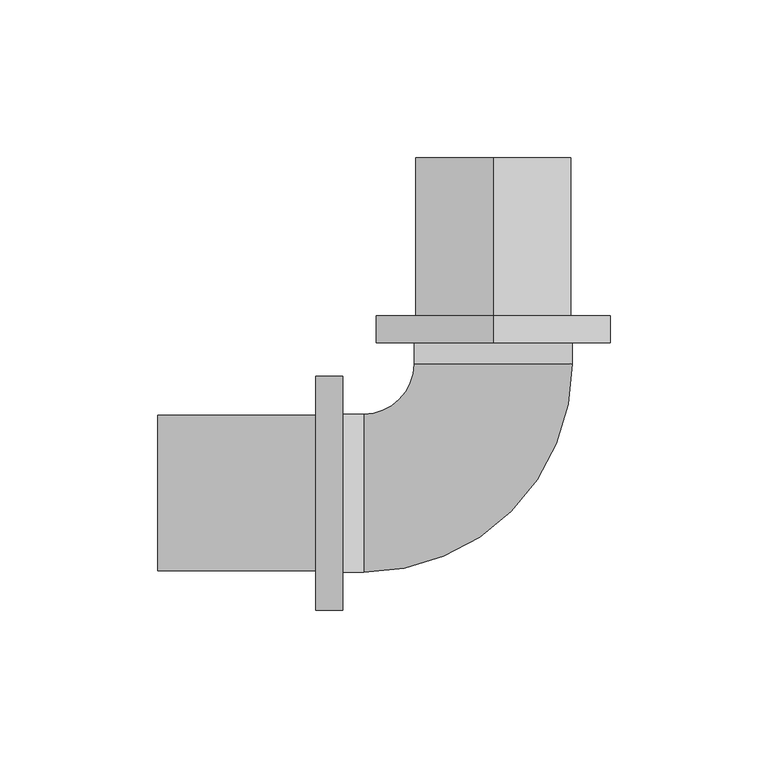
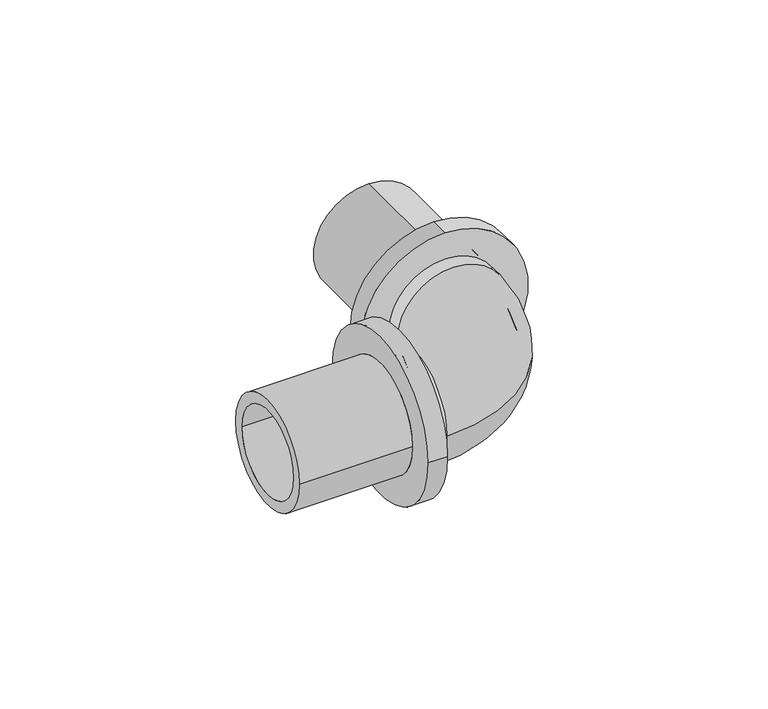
"""IFC4 building model written with IfcOpenShell, lengths in millimetres: pipe fitting geometry, RAUTITAN_Corner_RX+ : RTI RX+ C DN."""

from ifc_helpers import new_model, si_unit, point, frame, origin, place, context, project, spatial, polyline, circle_curve, ellipse_curve, trimmed, source, transform, mapped, element, save
from ifc_brep_helpers import plane_surface, cylinder_surface, revolved_surface, advanced_brep


def pipe_fitting_41d1b401(model_context):
    return source(origin(), model_context, "Body", "AdvancedBrep", [
        advanced_brep(
        [(0.0, 56.2, 37.05), (0.0, 56.2, -37.05), (0.0, 47.7, -37.05), (0.0, 47.7, 37.05), (0.0, 106.2, 24.65), (0.0, 106.2, -24.65), (0.0, 56.2, -24.65), (0.0, 56.2, 24.65), (0.0, 47.7, 19.75), (0.0, 47.7, -19.75), (0.0, 106.2, -19.75), (0.0, 106.2, 19.75)],
        [
            (0, 1, circle_curve(frame((0.0, 56.2, 0.0), z_axis=(0.0, -1.0, 0.0), x_axis=(0.0, 0.0, -1.0)), 37.05)),
            (1, 2),
            (2, 3, circle_curve(frame((0.0, 47.7, 0.0), z_axis=(0.0, 1.0, 0.0), x_axis=(0.0, 0.0, -1.0)), 37.05)),
            (3, 0),
            (4, 5, circle_curve(frame((0.0, 106.2, 0.0), z_axis=(0.0, -1.0, 0.0), x_axis=(0.0, 0.0, -1.0)), 24.65)),
            (5, 6),
            (6, 7, circle_curve(frame((0.0, 56.2, 0.0), z_axis=(0.0, 1.0, 0.0), x_axis=(0.0, 0.0, -1.0)), 24.65)),
            (7, 4),
            (8, 9, circle_curve(frame((0.0, 47.7, 0.0), z_axis=(0.0, -1.0, 0.0), x_axis=(0.0, 0.0, -1.0)), 19.75)),
            (9, 10),
            (10, 11, circle_curve(frame((0.0, 106.2, 0.0), z_axis=(0.0, 1.0, 0.0), x_axis=(0.0, 0.0, -1.0)), 19.75)),
            (11, 8),
            (1, 0, circle_curve(frame((0.0, 56.2, 0.0), z_axis=(0.0, -1.0, 0.0), x_axis=(0.0, 0.0, 1.0)), 37.05)),
            (3, 2, circle_curve(frame((0.0, 47.7, 0.0), z_axis=(0.0, 1.0, 0.0), x_axis=(0.0, 0.0, 1.0)), 37.05)),
            (6, 7, circle_curve(frame((0.0, 56.2, 0.0), z_axis=(0.0, -1.0, 0.0), x_axis=(0.0, 0.0, 1.0)), 24.65)),
            (5, 4, circle_curve(frame((0.0, 106.2, 0.0), z_axis=(0.0, -1.0, 0.0), x_axis=(0.0, 0.0, 1.0)), 24.65)),
            (10, 11, circle_curve(frame((0.0, 106.2, 0.0), z_axis=(0.0, -1.0, 0.0), x_axis=(0.0, 0.0, 1.0)), 19.75)),
            (9, 8, circle_curve(frame((0.0, 47.7, 0.0), z_axis=(0.0, -1.0, 0.0), x_axis=(0.0, 0.0, 1.0)), 19.75)),
        ],
        [
            cylinder_surface(frame((0.0, 47.7, 0.0), z_axis=(0.0, 1.0, 0.0), x_axis=(0.0, 0.0, -1.0)), 37.05),
            cylinder_surface(frame((0.0, 47.7, 0.0), z_axis=(0.0, 1.0, 0.0), x_axis=(0.0, 0.0, -1.0)), 24.65),
            revolved_surface(polyline([(0.0, 106.2, -19.75), (0.0, 47.7, -19.75)]), (0.0, 47.7, 0.0), (0.0, 1.0, 0.0)),
            cylinder_surface(frame((0.0, 47.7, 0.0), z_axis=(0.0, 1.0, 0.0), x_axis=(0.0, 0.0, 1.0)), 37.05),
            plane_surface(frame((0.0, 56.2, 0.0), z_axis=(0.0, 1.0, 0.0), x_axis=(0.0, 0.0, 1.0))),
            cylinder_surface(frame((0.0, 47.7, 0.0), z_axis=(0.0, 1.0, 0.0), x_axis=(0.0, 0.0, 1.0)), 24.65),
            plane_surface(frame((0.0, 106.2, 0.0), z_axis=(0.0, 1.0, 0.0), x_axis=(0.0, 0.0, 1.0))),
            revolved_surface(polyline([(0.0, 106.2, 19.75), (0.0, 47.7, 19.75)]), (0.0, 47.7, 0.0), (0.0, 1.0, 0.0)),
            plane_surface(frame((0.0, 47.7, 0.0), z_axis=(0.0, -1.0, 0.0), x_axis=(0.0, 0.0, 1.0))),
        ],
        [
            (0, [[1, 2, 3, 4]]),
            (1, [[5, 6, 7, 8]]),
            (2, [[9, 10, 11, 12]]),
            (3, [[13, -4, 14, -2]]),
            (4, [[-13, -1], [15, -7]]),
            (5, [[16, -8, -15, -6]]),
            (6, [[-16, -5], [17, -11]]),
            (7, [[18, -12, -17, -10]]),
            (8, [[-14, -3], [-18, -9]]),
        ],
    ),
        advanced_brep(
        [(-56.2, -37.05, 0.0), (-56.2, 37.05, 0.0), (-47.7, 37.05, 0.0), (-47.7, -37.05, 0.0), (-106.2, -24.65, 0.0), (-106.2, 24.65, 0.0), (-56.2, 24.65, 0.0), (-56.2, -24.65, 0.0), (-47.7, -19.75, 0.0), (-47.7, 19.75, 0.0), (-106.2, 19.75, 0.0), (-106.2, -19.75, 0.0)],
        [
            (0, 1, circle_curve(frame((-56.2, 0.0, 0.0), z_axis=(1.0, 0.0, 0.0), x_axis=(0.0, 1.0, 0.0)), 37.05)),
            (1, 2),
            (2, 3, circle_curve(frame((-47.7, 0.0, 0.0), z_axis=(-1.0, 0.0, 0.0), x_axis=(0.0, 1.0, 0.0)), 37.05)),
            (3, 0),
            (4, 5, circle_curve(frame((-106.2, 0.0, 0.0), z_axis=(1.0, 0.0, 0.0), x_axis=(0.0, 1.0, 0.0)), 24.65)),
            (5, 6),
            (6, 7, circle_curve(frame((-56.2, 0.0, 0.0), z_axis=(-1.0, 0.0, 0.0), x_axis=(0.0, 1.0, 0.0)), 24.65)),
            (7, 4),
            (8, 9, circle_curve(frame((-47.7, 0.0, 0.0), z_axis=(1.0, 0.0, 0.0), x_axis=(0.0, 1.0, 0.0)), 19.75)),
            (9, 10),
            (10, 11, circle_curve(frame((-106.2, 0.0, 0.0), z_axis=(-1.0, 0.0, 0.0), x_axis=(0.0, 1.0, 0.0)), 19.75)),
            (11, 8),
            (1, 0, circle_curve(frame((-56.2, 0.0, 0.0), z_axis=(1.0, 0.0, 0.0), x_axis=(0.0, -1.0, 0.0)), 37.05)),
            (3, 2, circle_curve(frame((-47.7, 0.0, 0.0), z_axis=(-1.0, 0.0, 0.0), x_axis=(0.0, -1.0, 0.0)), 37.05)),
            (6, 7, circle_curve(frame((-56.2, 0.0, 0.0), z_axis=(1.0, 0.0, 0.0), x_axis=(0.0, -1.0, 0.0)), 24.65)),
            (5, 4, circle_curve(frame((-106.2, 0.0, 0.0), z_axis=(1.0, 0.0, 0.0), x_axis=(0.0, -1.0, 0.0)), 24.65)),
            (10, 11, circle_curve(frame((-106.2, 0.0, 0.0), z_axis=(1.0, 0.0, 0.0), x_axis=(0.0, -1.0, 0.0)), 19.75)),
            (9, 8, circle_curve(frame((-47.7, 0.0, 0.0), z_axis=(1.0, 0.0, 0.0), x_axis=(0.0, -1.0, 0.0)), 19.75)),
        ],
        [
            cylinder_surface(frame((-47.7, 0.0, 0.0), z_axis=(-1.0, 0.0, 0.0), x_axis=(0.0, 1.0, 0.0)), 37.05),
            cylinder_surface(frame((-47.7, 0.0, 0.0), z_axis=(-1.0, 0.0, 0.0), x_axis=(0.0, 1.0, 0.0)), 24.65),
            revolved_surface(polyline([(-106.2, 19.75, 0.0), (-47.7, 19.75, 0.0)]), (-47.7, 0.0, 0.0), (-1.0, 0.0, 0.0)),
            cylinder_surface(frame((-47.7, 0.0, 0.0), z_axis=(-1.0, 0.0, 0.0), x_axis=(0.0, -1.0, 0.0)), 37.05),
            plane_surface(frame((-56.2, 0.0, 0.0), z_axis=(-1.0, 0.0, 0.0), x_axis=(0.0, -1.0, 0.0))),
            cylinder_surface(frame((-47.7, 0.0, 0.0), z_axis=(-1.0, 0.0, 0.0), x_axis=(0.0, -1.0, 0.0)), 24.65),
            plane_surface(frame((-106.2, 0.0, 0.0), z_axis=(-1.0, 0.0, 0.0), x_axis=(0.0, -1.0, 0.0))),
            revolved_surface(polyline([(-106.2, -19.75, 0.0), (-47.7, -19.75, 0.0)]), (-47.7, 0.0, 0.0), (-1.0, 0.0, 0.0)),
            plane_surface(frame((-47.7, 0.0, 0.0), z_axis=(1.0, 0.0, 0.0), x_axis=(0.0, -1.0, 0.0))),
        ],
        [
            (0, [[1, 2, 3, 4]]),
            (1, [[5, 6, 7, 8]]),
            (2, [[9, 10, 11, 12]]),
            (3, [[13, -4, 14, -2]]),
            (4, [[-13, -1], [15, -7]]),
            (5, [[16, -8, -15, -6]]),
            (6, [[-16, -5], [17, -11]]),
            (7, [[18, -12, -17, -10]]),
            (8, [[-14, -3], [-18, -9]]),
        ],
    ),
        advanced_brep(
        [(-47.7, 25.05, 0.0), (-47.7, -25.05, 0.0), (-47.7, 19.75, 0.0), (-47.7, -19.75, 0.0), (-41.0, -19.75, 0.0), (-41.0, 0.0, -19.75), (-41.0, 19.75, 0.0), (-41.0, 0.0, 19.75), (-41.0, -25.05, 0.0), (-41.0, 25.05, 0.0), (25.05, 47.7, 0.0), (-25.05, 47.7, 0.0), (19.75, 47.7, 0.0), (-19.75, 47.7, 0.0), (-19.75, 41.0, 0.0), (0.0, 41.0, -19.75), (19.75, 41.0, 0.0), (0.0, 41.0, 19.75), (-25.05, 41.0, 0.0), (25.05, 41.0, 0.0)],
        [
            (0, 1, circle_curve(frame((-47.7, 0.0, 0.0), z_axis=(-1.0, 0.0, 0.0), x_axis=(0.0, -1.0, 0.0)), 25.05)),
            (1, 0, circle_curve(frame((-47.7, 0.0, 0.0), z_axis=(-1.0, 0.0, 0.0), x_axis=(0.0, -1.0, 0.0)), 25.05)),
            (2, 3, circle_curve(frame((-47.7, 0.0, 0.0), z_axis=(1.0, 0.0, 0.0), x_axis=(0.0, -1.0, 0.0)), 19.75)),
            (3, 2, circle_curve(frame((-47.7, 0.0, 0.0), z_axis=(1.0, 0.0, 0.0), x_axis=(0.0, -1.0, 0.0)), 19.75)),
            (3, 4),
            (4, 5, circle_curve(frame((-41.0, 0.0, 0.0), z_axis=(1.0, 0.0, 0.0), x_axis=(0.0, -1.0, 0.0)), 19.75)),
            (5, 6, circle_curve(frame((-41.0, 0.0, 0.0), z_axis=(1.0, 0.0, 0.0), x_axis=(0.0, -1.0, 0.0)), 19.75)),
            (6, 2),
            (6, 7, circle_curve(frame((-41.0, 0.0, 0.0), z_axis=(1.0, 0.0, 0.0), x_axis=(0.0, -1.0, 0.0)), 19.75)),
            (7, 4, circle_curve(frame((-41.0, 0.0, 0.0), z_axis=(1.0, 0.0, 0.0), x_axis=(0.0, -1.0, 0.0)), 19.75)),
            (1, 8),
            (8, 9, circle_curve(frame((-41.0, 0.0, 0.0), z_axis=(-1.0, 0.0, 0.0), x_axis=(0.0, -1.0, 0.0)), 25.05)),
            (9, 0),
            (9, 8, circle_curve(frame((-41.0, 0.0, 0.0), z_axis=(-1.0, 0.0, 0.0), x_axis=(0.0, -1.0, 0.0)), 25.05)),
            (10, 11, circle_curve(frame((0.0, 47.7, 0.0), z_axis=(0.0, 1.0, 0.0), x_axis=(-1.0, 0.0, 0.0)), 25.05)),
            (11, 10, circle_curve(frame((0.0, 47.7, 0.0), z_axis=(0.0, 1.0, 0.0), x_axis=(-1.0, 0.0, 0.0)), 25.05)),
            (12, 13, circle_curve(frame((0.0, 47.7, 0.0), z_axis=(0.0, -1.0, 0.0), x_axis=(-1.0, 0.0, 0.0)), 19.75)),
            (13, 12, circle_curve(frame((0.0, 47.7, 0.0), z_axis=(0.0, -1.0, 0.0), x_axis=(-1.0, 0.0, 0.0)), 19.75)),
            (13, 14),
            (14, 15, circle_curve(frame((0.0, 41.0, 0.0), z_axis=(0.0, -1.0, 0.0), x_axis=(-1.0, 0.0, 0.0)), 19.75)),
            (15, 16, circle_curve(frame((0.0, 41.0, 0.0), z_axis=(0.0, -1.0, 0.0), x_axis=(-1.0, 0.0, 0.0)), 19.75)),
            (16, 12),
            (16, 17, circle_curve(frame((0.0, 41.0, 0.0), z_axis=(0.0, -1.0, 0.0), x_axis=(-1.0, 0.0, 0.0)), 19.75)),
            (17, 14, circle_curve(frame((0.0, 41.0, 0.0), z_axis=(0.0, -1.0, 0.0), x_axis=(-1.0, 0.0, 0.0)), 19.75)),
            (11, 18),
            (18, 19, circle_curve(frame((0.0, 41.0, 0.0), z_axis=(0.0, 1.0, 0.0), x_axis=(-1.0, 0.0, 0.0)), 25.05)),
            (19, 10),
            (19, 18, circle_curve(frame((0.0, 41.0, 0.0), z_axis=(0.0, 1.0, 0.0), x_axis=(-1.0, 0.0, 0.0)), 25.05)),
            (14, 6, circle_curve(frame((-41.0, 41.0, 0.0), z_axis=(0.0, 0.0, -1.0), x_axis=(0.0, -1.0, 0.0)), 21.25)),
            (4, 16, circle_curve(frame((-41.0, 41.0, 0.0), z_axis=(0.0, 0.0, 1.0), x_axis=(0.0, -1.0, 0.0)), 60.75)),
            (18, 9, circle_curve(frame((-41.0, 41.0, 0.0), z_axis=(0.0, 0.0, -1.0), x_axis=(0.0, -1.0, 0.0)), 15.95)),
            (8, 19, circle_curve(frame((-41.0, 41.0, 0.0), z_axis=(0.0, 0.0, 1.0), x_axis=(0.0, -1.0, 0.0)), 66.05)),
        ],
        [
            plane_surface(frame((-47.7, 0.0, 0.0), z_axis=(-1.0, 0.0, 0.0), x_axis=(0.0, 0.0, 1.0))),
            revolved_surface(polyline([(-47.7, -19.75, 0.0), (-41.0, -19.75, 0.0)]), (-41.0, 0.0, 0.0), (-1.0, 0.0, 0.0)),
            cylinder_surface(frame((-41.0, 0.0, 0.0), z_axis=(1.0, 0.0, 0.0), x_axis=(0.0, -1.0, 0.0)), 25.05),
            plane_surface(frame((0.0, 47.7, 0.0), z_axis=(0.0, 1.0, 0.0), x_axis=(0.0, 0.0, 1.0))),
            revolved_surface(polyline([(-19.75, 47.7, 0.0), (-19.75, 41.0, 0.0)]), (0.0, 41.0, 0.0), (0.0, 1.0, 0.0)),
            cylinder_surface(frame((0.0, 41.0, 0.0), z_axis=(0.0, -1.0, 0.0), x_axis=(-1.0, 0.0, 0.0)), 25.05),
            revolved_surface(trimmed(ellipse_curve(frame((-41.0, 0.0, 0.0), z_axis=(1.0, 0.0, 0.0), x_axis=(0.0, 1.0, 0.0)), 19.75, 19.75), [point((-41.0, -19.75, 0.0))], [point((-41.0, 19.75, 0.0))], True, "CARTESIAN"), (-41.0, 41.0, 0.0), (0.0, 0.0, 1.0)),
            revolved_surface(trimmed(ellipse_curve(frame((-41.0, 0.0, 0.0), z_axis=(1.0, 0.0, 0.0), x_axis=(0.0, 1.0, 0.0)), 19.75, 19.75), [point((-41.0, 19.75, 0.0))], [point((-41.0, -19.75, 0.0))], True, "CARTESIAN"), (-41.0, 41.0, 0.0), (0.0, 0.0, 1.0)),
            revolved_surface(trimmed(ellipse_curve(frame((-41.0, 0.0, 0.0), z_axis=(-1.0, 0.0, 0.0), x_axis=(0.0, 1.0, 0.0)), 25.05, 25.05), [point((-41.0, -25.05, 0.0))], [point((-41.0, 25.05, 0.0))], True, "CARTESIAN"), (-41.0, 41.0, 0.0), (0.0, 0.0, 1.0)),
            revolved_surface(trimmed(ellipse_curve(frame((-41.0, 0.0, 0.0), z_axis=(-1.0, 0.0, 0.0), x_axis=(0.0, 1.0, 0.0)), 25.05, 25.05), [point((-41.0, 25.05, 0.0))], [point((-41.0, -25.05, 0.0))], True, "CARTESIAN"), (-41.0, 41.0, 0.0), (0.0, 0.0, 1.0)),
        ],
        [
            (0, [[1, 2], [3, 4]]),
            (1, [[-4, 5, 6, 7, 8]]),
            (1, [[-3, -8, 9, 10, -5]]),
            (2, [[-2, 11, 12, 13]]),
            (2, [[-1, -13, 14, -11]]),
            (3, [[15, 16], [17, 18]]),
            (4, [[-18, 19, 20, 21, 22]]),
            (4, [[-17, -22, 23, 24, -19]]),
            (5, [[-16, 25, 26, 27]]),
            (5, [[-15, -27, 28, -25]]),
            (6, [[29, -7, -6, 30, -21, -20]]),
            (7, [[-29, -24, -23, -30, -10, -9]]),
            (8, [[31, -12, 32, -26]]),
            (9, [[-31, -28, -32, -14]]),
        ],
    ),
    ])


if __name__ == "__main__":
    model = new_model("IFC4")
    model_context = context("Model", 3, world=origin())
    ifc_project = project(units=[si_unit("LENGTHUNIT", "METRE", prefix="MILLI")], contexts=[model_context])
    site = spatial("IfcSite", under=ifc_project)
    building = spatial("IfcBuilding", under=site)
    placement = place(None, origin())
    pipe_fitting_shape = pipe_fitting_41d1b401(model_context)
    element("IfcPipeFitting", 1, ObjectType="RAUTITAN_Corner_RX+ : RTI RX+ C DN", at=placement, inside=building, context=model_context, shape_type="MappedRepresentation", body=[
        mapped(pipe_fitting_shape, transform((0.0, 0.0, 0.0), x_axis=(1.0, 0.0, 0.0), y_axis=(0.0, 1.0, 0.0), z_axis=(0.0, 0.0, 1.0))),
    ])
    save(model, "model.ifc")
